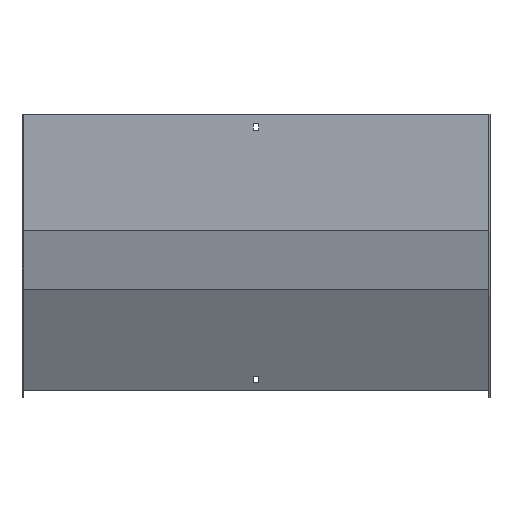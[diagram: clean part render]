
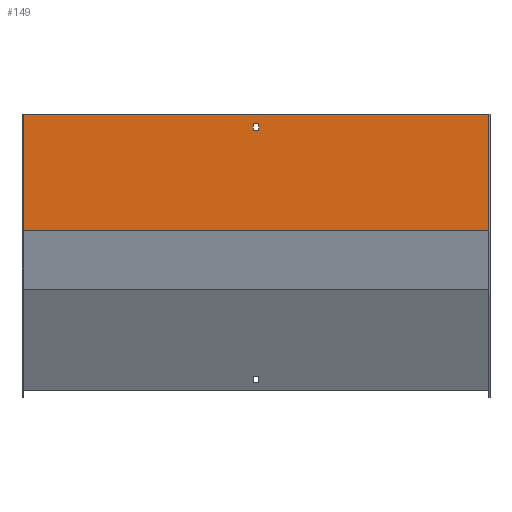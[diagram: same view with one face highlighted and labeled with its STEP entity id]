
A CAD part, front view. The second image highlights one B-rep face of the part: STEP entity #149.
In plain terms, the highlighted planar face has unit normal (0, -1, 0).
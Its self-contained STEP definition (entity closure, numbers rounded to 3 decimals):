
#5 = CARTESIAN_POINT ( 'NONE',  ( -300., -1.5, 0. ) ) ;
#39 = VECTOR ( 'NONE', #141, 1000. ) ;
#47 = EDGE_CURVE ( 'NONE', #81, #365, #513, .T. ) ;
#59 = LINE ( 'NONE', #143, #77 ) ;
#68 = CARTESIAN_POINT ( 'NONE',  ( -3.25, -1.5, 0. ) ) ;
#77 = VECTOR ( 'NONE', #205, 1000. ) ;
#81 = VERTEX_POINT ( 'NONE', #682 ) ;
#117 = ORIENTED_EDGE ( 'NONE', *, *, #47, .F. ) ;
#126 = VECTOR ( 'NONE', #740, 1000. ) ;
#130 = AXIS2_PLACEMENT_3D ( 'NONE', #512, #389, #838 ) ;
#141 = DIRECTION ( 'NONE',  ( 0., 0., -1. ) ) ;
#143 = CARTESIAN_POINT ( 'NONE',  ( 300., -1.5, 0. ) ) ;
#149 = ADVANCED_FACE ( 'NONE', ( #572, #645 ), #505, .F. ) ;
#152 = LINE ( 'NONE', #833, #675 ) ;
#155 = DIRECTION ( 'NONE',  ( 1., 0., 0. ) ) ;
#188 = CARTESIAN_POINT ( 'NONE',  ( 300., -1.5, 0. ) ) ;
#195 = CARTESIAN_POINT ( 'NONE',  ( 301.5, -1.5, -150.097 ) ) ;
#197 = EDGE_CURVE ( 'NONE', #774, #575, #721, .T. ) ;
#205 = DIRECTION ( 'NONE',  ( 0., 0., -1. ) ) ;
#210 = CARTESIAN_POINT ( 'NONE',  ( -300., -1.5, 0. ) ) ;
#217 = EDGE_CURVE ( 'NONE', #516, #433, #332, .T. ) ;
#288 = VECTOR ( 'NONE', #596, 1000. ) ;
#310 = VECTOR ( 'NONE', #792, 1000. ) ;
#320 = EDGE_CURVE ( 'NONE', #365, #642, #539, .T. ) ;
#332 = LINE ( 'NONE', #195, #288 ) ;
#341 = ORIENTED_EDGE ( 'NONE', *, *, #489, .F. ) ;
#365 = VERTEX_POINT ( 'NONE', #667 ) ;
#387 = EDGE_CURVE ( 'NONE', #774, #516, #59, .T. ) ;
#389 = DIRECTION ( 'NONE',  ( 0., 1., 0. ) ) ;
#390 = ORIENTED_EDGE ( 'NONE', *, *, #217, .F. ) ;
#391 = CARTESIAN_POINT ( 'NONE',  ( -300., -1.5, -150.097 ) ) ;
#396 = VECTOR ( 'NONE', #525, 1000. ) ;
#432 = ORIENTED_EDGE ( 'NONE', *, *, #597, .T. ) ;
#433 = VERTEX_POINT ( 'NONE', #391 ) ;
#464 = CARTESIAN_POINT ( 'NONE',  ( 301.5, -1.5, -12. ) ) ;
#469 = CARTESIAN_POINT ( 'NONE',  ( 301.5, -1.5, 0. ) ) ;
#486 = CARTESIAN_POINT ( 'NONE',  ( 300., -1.5, -150.097 ) ) ;
#489 = EDGE_CURVE ( 'NONE', #642, #553, #669, .T. ) ;
#493 = CARTESIAN_POINT ( 'NONE',  ( -3.25, -1.5, -12. ) ) ;
#496 = EDGE_LOOP ( 'NONE', ( #432, #390, #580, #502 ) ) ;
#499 = CARTESIAN_POINT ( 'NONE',  ( 3.25, -1.5, 0. ) ) ;
#502 = ORIENTED_EDGE ( 'NONE', *, *, #197, .T. ) ;
#505 = PLANE ( 'NONE',  #130 ) ;
#512 = CARTESIAN_POINT ( 'NONE',  ( 301.5, -1.5, 0. ) ) ;
#513 = LINE ( 'NONE', #499, #629 ) ;
#516 = VERTEX_POINT ( 'NONE', #486 ) ;
#525 = DIRECTION ( 'NONE',  ( -1., 0., 0. ) ) ;
#537 = CARTESIAN_POINT ( 'NONE',  ( -3.25, -1.5, -21. ) ) ;
#539 = LINE ( 'NONE', #464, #396 ) ;
#553 = VERTEX_POINT ( 'NONE', #537 ) ;
#572 = FACE_OUTER_BOUND ( 'NONE', #496, .T. ) ;
#575 = VERTEX_POINT ( 'NONE', #210 ) ;
#580 = ORIENTED_EDGE ( 'NONE', *, *, #387, .F. ) ;
#596 = DIRECTION ( 'NONE',  ( -1., 0., 0. ) ) ;
#597 = EDGE_CURVE ( 'NONE', #575, #433, #805, .T. ) ;
#603 = EDGE_CURVE ( 'NONE', #553, #81, #152, .T. ) ;
#629 = VECTOR ( 'NONE', #767, 1000. ) ;
#642 = VERTEX_POINT ( 'NONE', #493 ) ;
#645 = FACE_BOUND ( 'NONE', #757, .T. ) ;
#646 = ORIENTED_EDGE ( 'NONE', *, *, #320, .F. ) ;
#667 = CARTESIAN_POINT ( 'NONE',  ( 3.25, -1.5, -12. ) ) ;
#669 = LINE ( 'NONE', #68, #39 ) ;
#675 = VECTOR ( 'NONE', #155, 1000. ) ;
#682 = CARTESIAN_POINT ( 'NONE',  ( 3.25, -1.5, -21. ) ) ;
#721 = LINE ( 'NONE', #469, #310 ) ;
#740 = DIRECTION ( 'NONE',  ( 0., 0., -1. ) ) ;
#751 = ORIENTED_EDGE ( 'NONE', *, *, #603, .F. ) ;
#757 = EDGE_LOOP ( 'NONE', ( #117, #751, #341, #646 ) ) ;
#767 = DIRECTION ( 'NONE',  ( 0., 0., 1. ) ) ;
#774 = VERTEX_POINT ( 'NONE', #188 ) ;
#792 = DIRECTION ( 'NONE',  ( -1., 0., 0. ) ) ;
#805 = LINE ( 'NONE', #5, #126 ) ;
#833 = CARTESIAN_POINT ( 'NONE',  ( 301.5, -1.5, -21. ) ) ;
#838 = DIRECTION ( 'NONE',  ( 0., 0., 1. ) ) ;
